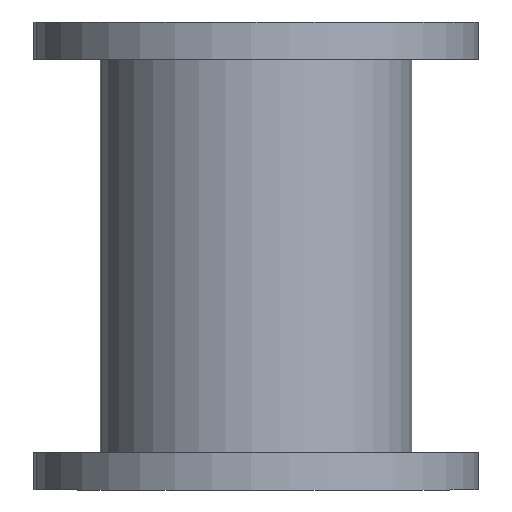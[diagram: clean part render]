
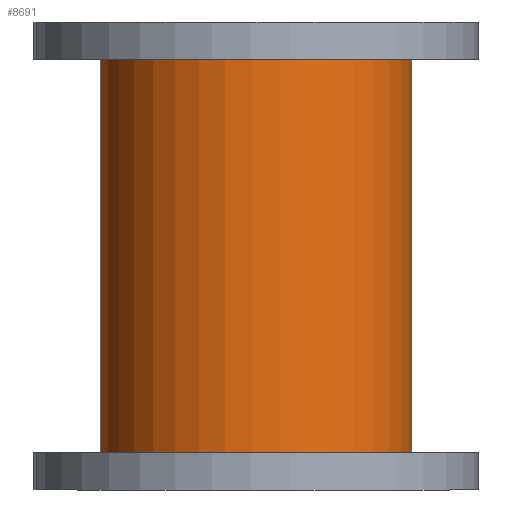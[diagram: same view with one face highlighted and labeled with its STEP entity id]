
A CAD part, front view. The second image highlights one B-rep face of the part: STEP entity #8691.
In plain terms, the highlighted cylindrical face has radius 100 mm (diameter 200 mm), a partial arc.
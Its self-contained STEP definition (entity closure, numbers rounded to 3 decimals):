
#567 = DIRECTION ( 'NONE',  ( 1., 0., 0. ) ) ;
#901 = LINE ( 'NONE', #4854, #4222 ) ;
#1017 = EDGE_CURVE ( 'NONE', #5335, #8498, #901, .T. ) ;
#1265 = AXIS2_PLACEMENT_3D ( 'NONE', #8797, #8863, #2994 ) ;
#1455 = DIRECTION ( 'NONE',  ( 1., 0., 0. ) ) ;
#1553 = VECTOR ( 'NONE', #7324, 1000. ) ;
#1593 = EDGE_LOOP ( 'NONE', ( #10938, #3110, #2778, #10817 ) ) ;
#2778 = ORIENTED_EDGE ( 'NONE', *, *, #11183, .T. ) ;
#2994 = DIRECTION ( 'NONE',  ( 1., 0., 0. ) ) ;
#3110 = ORIENTED_EDGE ( 'NONE', *, *, #5165, .T. ) ;
#3276 = CARTESIAN_POINT ( 'NONE',  ( 100., 0., -125. ) ) ;
#3421 = CARTESIAN_POINT ( 'NONE',  ( 0., 0., -126. ) ) ;
#3510 = DIRECTION ( 'NONE',  ( 0., 0., 1. ) ) ;
#4222 = VECTOR ( 'NONE', #8796, 1000. ) ;
#4360 = CARTESIAN_POINT ( 'NONE',  ( -100., 0., 126. ) ) ;
#4854 = CARTESIAN_POINT ( 'NONE',  ( -100., 0., -125. ) ) ;
#5165 = EDGE_CURVE ( 'NONE', #5335, #10851, #7209, .T. ) ;
#5210 = LINE ( 'NONE', #3276, #1553 ) ;
#5335 = VERTEX_POINT ( 'NONE', #10502 ) ;
#7209 = CIRCLE ( 'NONE', #9880, 100. ) ;
#7324 = DIRECTION ( 'NONE',  ( 0., 0., 1. ) ) ;
#7884 = CIRCLE ( 'NONE', #11602, 100. ) ;
#8179 = DIRECTION ( 'NONE',  ( 0., 0., 1. ) ) ;
#8195 = VERTEX_POINT ( 'NONE', #9658 ) ;
#8498 = VERTEX_POINT ( 'NONE', #4360 ) ;
#8577 = CARTESIAN_POINT ( 'NONE',  ( 0., 0., 126. ) ) ;
#8684 = CARTESIAN_POINT ( 'NONE',  ( 100., 0., -126. ) ) ;
#8691 = ADVANCED_FACE ( 'NONE', ( #10722 ), #9637, .T. ) ;
#8796 = DIRECTION ( 'NONE',  ( 0., 0., 1. ) ) ;
#8797 = CARTESIAN_POINT ( 'NONE',  ( 0., 0., -125. ) ) ;
#8863 = DIRECTION ( 'NONE',  ( 0., 0., 1. ) ) ;
#9201 = EDGE_CURVE ( 'NONE', #8498, #8195, #7884, .T. ) ;
#9637 = CYLINDRICAL_SURFACE ( 'NONE', #1265, 100. ) ;
#9658 = CARTESIAN_POINT ( 'NONE',  ( 100., 0., 126. ) ) ;
#9880 = AXIS2_PLACEMENT_3D ( 'NONE', #3421, #8179, #1455 ) ;
#10502 = CARTESIAN_POINT ( 'NONE',  ( -100., 0., -126. ) ) ;
#10722 = FACE_OUTER_BOUND ( 'NONE', #1593, .T. ) ;
#10817 = ORIENTED_EDGE ( 'NONE', *, *, #9201, .F. ) ;
#10851 = VERTEX_POINT ( 'NONE', #8684 ) ;
#10938 = ORIENTED_EDGE ( 'NONE', *, *, #1017, .F. ) ;
#11183 = EDGE_CURVE ( 'NONE', #10851, #8195, #5210, .T. ) ;
#11602 = AXIS2_PLACEMENT_3D ( 'NONE', #8577, #3510, #567 ) ;
